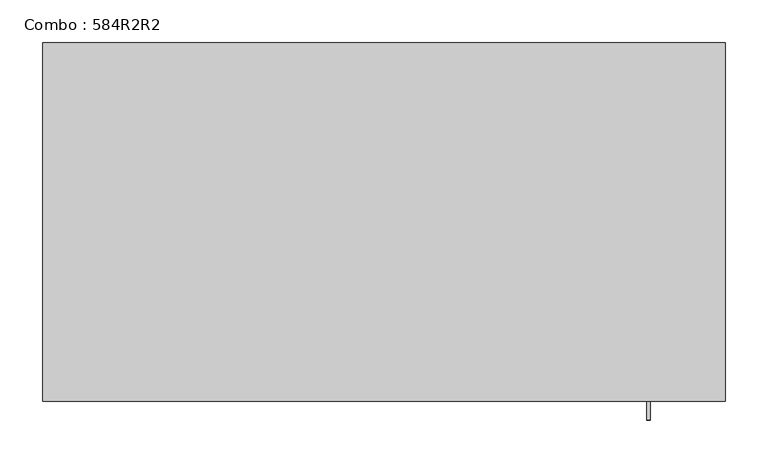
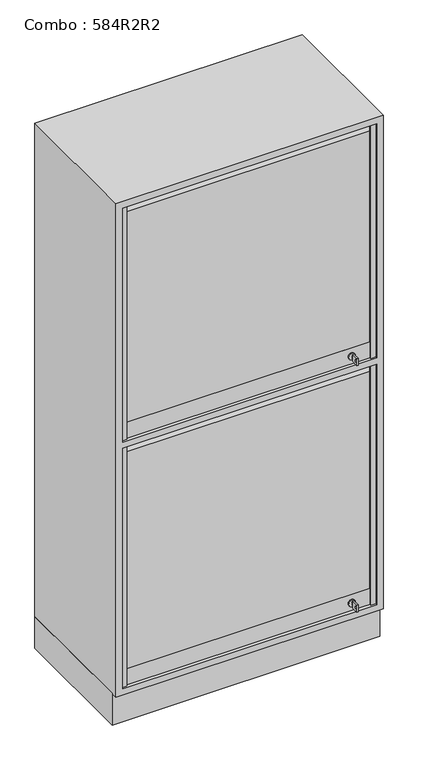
"""IFC4 building model written with IfcOpenShell, lengths in millimetres: furniture geometry, Combo : 584R2R2."""

from ifc_helpers import new_model, si_unit, point, frame, frame_2d, origin, origin_with_axes, place, context, project, spatial, polyline, circle_curve, trimmed, segment, composite_curve, outline, extrude, faceted_brep, source, transform, mapped, element, save


def combo_584r2r2_8ca098e3(model_context):
    return source(origin(), model_context, "Body", "SolidModel", [
        extrude(outline(polyline([(-400.0, -400.0), (-400.0, 0.0), (400.0, 0.0), (400.0, -400.0), (-400.0, -400.0)])), origin_with_axes(), (0.0, 0.0, 1.0), 100.0),
        extrude(outline(composite_curve([segment(trimmed(circle_curve(frame_2d((925.0, 310.0)), 10.0), [point((925.0, 300.0))], [point((925.0, 320.0))], False, "CARTESIAN"), True, "CONTINUOUS"), segment(trimmed(circle_curve(frame_2d((925.0, 310.0)), 10.0), [point((925.0, 320.0))], [point((925.0, 300.0))], False, "CARTESIAN"), True, "CONTINUOUS")], self_intersect=False)), frame((0.0, -414.0, 0.0), z_axis=(0.0, 1.0, 0.0), x_axis=(0.0, 0.0, 1.0)), (0.0, 0.0, 1.0), 4.0),
        extrude(outline(polyline([(-442.0, 914.014113), (-442.0, 936.0), (-420.0, 936.0), (-420.0, 914.014113), (-442.0, 914.014113)]), holes=[composite_curve([segment(trimmed(circle_curve(frame_2d((-435.75, 925.0070565)), 3.2230706), [point((-435.75, 928.2301271))], [point((-435.75, 921.7839859))], True, "CARTESIAN"), True, "CONTINUOUS"), segment(trimmed(circle_curve(frame_2d((-435.75, 925.0070565)), 3.2230706), [point((-435.75, 921.7839859))], [point((-435.75, 928.2301271))], True, "CARTESIAN"), True, "CONTINUOUS")], self_intersect=False)]), frame((308.0, 0.0, 0.0), z_axis=(1.0, 0.0, 0.0), x_axis=(0.0, 1.0, 0.0)), (0.0, 0.0, 1.0), 4.0416064),
        extrude(outline(polyline([(311.0416064, -420.0), (309.0, -420.0), (309.0, -414.0), (311.0416064, -414.0), (311.0416064, -420.0)])), frame((0.0, 0.0, 921.014113), z_axis=(0.0, 0.0, 1.0), x_axis=(1.0, 0.0, 0.0)), (0.0, 0.0, 1.0), 7.985887),
        extrude(outline(composite_curve([segment(trimmed(circle_curve(frame_2d((145.0, 310.0)), 10.0), [point((145.0, 300.0))], [point((145.0, 320.0))], False, "CARTESIAN"), True, "CONTINUOUS"), segment(trimmed(circle_curve(frame_2d((145.0, 310.0)), 10.0), [point((145.0, 320.0))], [point((145.0, 300.0))], False, "CARTESIAN"), True, "CONTINUOUS")], self_intersect=False)), frame((0.0, -414.0, 0.0), z_axis=(0.0, 1.0, 0.0), x_axis=(0.0, 0.0, 1.0)), (0.0, 0.0, 1.0), 4.0),
        extrude(outline(polyline([(-442.0, 134.014113), (-442.0, 156.0), (-420.0, 156.0), (-420.0, 134.014113), (-442.0, 134.014113)]), holes=[composite_curve([segment(trimmed(circle_curve(frame_2d((-435.75, 145.0070565)), 3.2230706), [point((-435.75, 148.2301271))], [point((-435.75, 141.7839859))], True, "CARTESIAN"), True, "CONTINUOUS"), segment(trimmed(circle_curve(frame_2d((-435.75, 145.0070565)), 3.2230706), [point((-435.75, 141.7839859))], [point((-435.75, 148.2301271))], True, "CARTESIAN"), True, "CONTINUOUS")], self_intersect=False)]), frame((308.0, 0.0, 0.0), z_axis=(1.0, 0.0, 0.0), x_axis=(0.0, 1.0, 0.0)), (0.0, 0.0, 1.0), 4.0416064),
        extrude(outline(polyline([(311.0416064, -420.0), (309.0, -420.0), (309.0, -414.0), (311.0416064, -414.0), (311.0416064, -420.0)])), frame((0.0, 0.0, 141.014113), z_axis=(0.0, 0.0, 1.0), x_axis=(1.0, 0.0, 0.0)), (0.0, 0.0, 1.0), 7.985887),
        extrude(outline(polyline([(380.0, -400.0), (380.0, -410.0), (-380.0, -410.0), (-380.0, -400.0), (380.0, -400.0)])), frame((0.0, 0.0, 900.0), z_axis=(0.0, 0.0, 1.0), x_axis=(1.0, 0.0, 0.0)), (0.0, 0.0, 1.0), 50.0),
        extrude(outline(polyline([(-365.0, -415.0), (-380.0, -415.0), (-380.0, -410.0), (-365.0, -410.0), (-365.0, -415.0)])), frame((0.0, 0.0, 900.0), z_axis=(0.0, 0.0, 1.0), x_axis=(1.0, 0.0, 0.0)), (0.0, 0.0, 1.0), 740.0),
        extrude(outline(polyline([(380.0, -415.0), (365.0, -415.0), (365.0, -410.0), (380.0, -410.0), (380.0, -415.0)])), frame((0.0, 0.0, 900.0), z_axis=(0.0, 0.0, 1.0), x_axis=(1.0, 0.0, 0.0)), (0.0, 0.0, 1.0), 740.0),
        extrude(outline(composite_curve([segment(trimmed(circle_curve(frame_2d((-390.0, 1616.5)), 20.0), [point((-410.0, 1616.5))], [point((-390.0, 1636.5))], False, "CARTESIAN"), True, "CONTINUOUS"), segment(polyline([(-390.0, 1636.5), (-360.0, 1636.5), (-360.0, 1626.5), (-390.0, 1626.5)]), True, "CONTINUOUS"), segment(trimmed(circle_curve(frame_2d((-390.0, 1616.5)), 10.0), [point((-390.0, 1626.5))], [point((-400.0, 1616.5))], True, "CARTESIAN"), True, "CONTINUOUS"), segment(polyline([(-400.0, 1616.5), (-400.0, 950.0), (-410.0, 950.0), (-410.0, 1616.5)]), True, "CONTINUOUS")], self_intersect=False)), frame((-380.0, 0.0, 0.0), z_axis=(1.0, 0.0, 0.0), x_axis=(0.0, 1.0, 0.0)), (0.0, 0.0, 1.0), 760.0),
        extrude(outline(polyline([(380.0, -400.0), (380.0, -410.0), (-380.0, -410.0), (-380.0, -400.0), (380.0, -400.0)])), frame((0.0, 0.0, 120.0), z_axis=(0.0, 0.0, 1.0), x_axis=(1.0, 0.0, 0.0)), (0.0, 0.0, 1.0), 50.0),
        extrude(outline(polyline([(-365.0, -415.0), (-380.0, -415.0), (-380.0, -410.0), (-365.0, -410.0), (-365.0, -415.0)])), frame((0.0, 0.0, 120.0), z_axis=(0.0, 0.0, 1.0), x_axis=(1.0, 0.0, 0.0)), (0.0, 0.0, 1.0), 760.0),
        extrude(outline(polyline([(380.0, -415.0), (365.0, -415.0), (365.0, -410.0), (380.0, -410.0), (380.0, -415.0)])), frame((0.0, 0.0, 120.0), z_axis=(0.0, 0.0, 1.0), x_axis=(1.0, 0.0, 0.0)), (0.0, 0.0, 1.0), 760.0),
        extrude(outline(composite_curve([segment(trimmed(circle_curve(frame_2d((-390.0, 856.5)), 20.0), [point((-410.0, 856.5))], [point((-390.0, 876.5))], False, "CARTESIAN"), True, "CONTINUOUS"), segment(polyline([(-390.0, 876.5), (-360.0, 876.5), (-360.0, 866.5), (-390.0, 866.5)]), True, "CONTINUOUS"), segment(trimmed(circle_curve(frame_2d((-390.0, 856.5)), 10.0), [point((-390.0, 866.5))], [point((-400.0, 856.5))], True, "CARTESIAN"), True, "CONTINUOUS"), segment(polyline([(-400.0, 856.5), (-400.0, 170.0), (-410.0, 170.0), (-410.0, 856.5)]), True, "CONTINUOUS")], self_intersect=False)), frame((-380.0, 0.0, 0.0), z_axis=(1.0, 0.0, 0.0), x_axis=(0.0, 1.0, 0.0)), (0.0, 0.0, 1.0), 760.0),
        faceted_brep([(400.0, 0.0, 1660.0), (-400.0, 0.0, 1660.0), (-400.0, -420.0, 1660.0), (400.0, -420.0, 1660.0), (-400.0, 0.0, 100.0), (400.0, 0.0, 100.0), (400.0, -420.0, 100.0), (-400.0, -420.0, 100.0), (380.0, -420.0, 880.0), (380.0, -420.0, 120.0), (-380.0, -420.0, 120.0), (-380.0, -420.0, 880.0), (-380.0, -420.0, 1640.0), (380.0, -420.0, 1640.0), (380.0, -420.0, 900.0), (-380.0, -420.0, 900.0), (380.0, -120.0, 120.0), (380.0, -120.0, 880.0), (-380.0, -120.0, 880.0), (-380.0, -120.0, 120.0), (-380.0, -120.0, 1640.0), (380.0, -120.0, 1640.0), (380.0, -120.0, 900.0), (-380.0, -120.0, 900.0)], [[[0, 1, 2, 3]], [[4, 5, 6, 7]], [[1, 0, 5, 4]], [[2, 1, 4, 7]], [[3, 2, 7, 6], [8, 9, 10, 11], [12, 13, 14, 15]], [[0, 3, 6, 5]], [[16, 17, 18, 19]], [[17, 16, 9, 8]], [[19, 18, 11, 10]], [[16, 19, 10, 9]], [[20, 21, 13, 12]], [[18, 17, 8, 11]], [[22, 21, 20, 23]], [[21, 22, 14, 13]], [[23, 20, 12, 15]], [[22, 23, 15, 14]]]),
    ])


if __name__ == "__main__":
    model = new_model("IFC4")
    model_context = context("Model", 3, world=origin())
    ifc_project = project(units=[si_unit("LENGTHUNIT", "METRE", prefix="MILLI")], contexts=[model_context])
    site = spatial("IfcSite", under=ifc_project)
    building = spatial("IfcBuilding", under=site)
    placement = place(None, origin())
    combo_584r2r2_shape = combo_584r2r2_8ca098e3(model_context)
    element("IfcFurniture", 1, ObjectType="Combo : 584R2R2", at=placement, inside=building, context=model_context, shape_type="MappedRepresentation", body=[
        mapped(combo_584r2r2_shape, transform((0.0, 0.0, 0.0), x_axis=(1.0, 0.0, 0.0), y_axis=(0.0, 1.0, 0.0), z_axis=(0.0, 0.0, 1.0))),
    ])
    save(model, "model.ifc")
